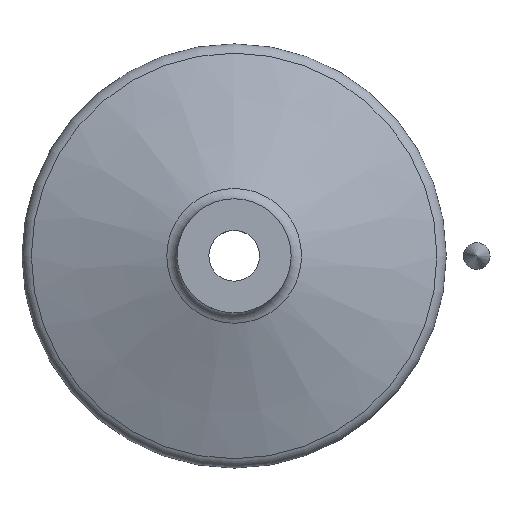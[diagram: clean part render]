
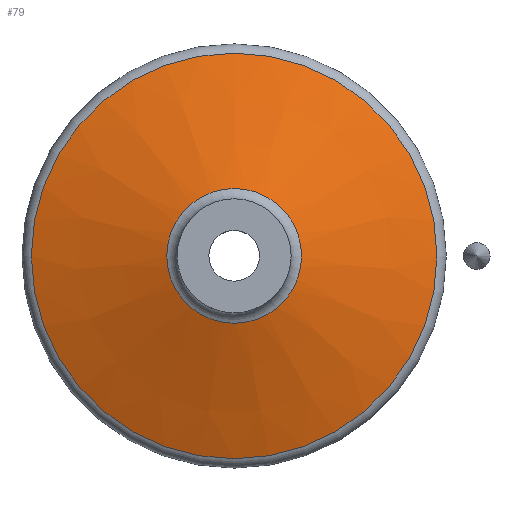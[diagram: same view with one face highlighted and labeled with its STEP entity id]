
A CAD part, top view. The second image highlights one B-rep face of the part: STEP entity #79.
In plain terms, the highlighted conical face has half-angle 69.99 degrees and reference radius 21.332 mm.
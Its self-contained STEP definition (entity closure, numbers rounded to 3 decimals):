
#79=ADVANCED_FACE('',(#178,#179),#180,.T.);
#178=FACE_BOUND('',#296,.T.);
#179=FACE_OUTER_BOUND('',#297,.T.);
#180=CONICAL_SURFACE('',#298,21.332,1.222);
#296=EDGE_LOOP('',(#430));
#297=EDGE_LOOP('',(#431));
#298=AXIS2_PLACEMENT_3D('',#432,#433,#434);
#430=ORIENTED_EDGE('',*,*,#537,.T.);
#431=ORIENTED_EDGE('',*,*,#540,.F.);
#432=CARTESIAN_POINT('',(0.0,0.,20.));
#433=DIRECTION('',(0.0,0.,-1.0));
#434=DIRECTION('',(1.0,0.0,0.0));
#537=EDGE_CURVE('',#604,#604,#605,.T.);
#540=EDGE_CURVE('',#609,#609,#610,.T.);
#604=VERTEX_POINT('',#748);
#605=CIRCLE('',#749,10.644);
#609=VERTEX_POINT('',#753);
#610=CIRCLE('',#754,32.02);
#748=CARTESIAN_POINT('',(0.0,10.644,23.892));
#749=AXIS2_PLACEMENT_3D('',#825,#826,#827);
#753=CARTESIAN_POINT('',(0.0,32.02,16.108));
#754=AXIS2_PLACEMENT_3D('',#831,#832,#833);
#825=CARTESIAN_POINT('',(0.0,0.,23.892));
#826=DIRECTION('',(0.0,0.,-1.0));
#827=DIRECTION('',(0.0,1.0,0.));
#831=CARTESIAN_POINT('',(0.0,0.,16.108));
#832=DIRECTION('',(0.0,0.,-1.0));
#833=DIRECTION('',(0.0,1.0,0.));
